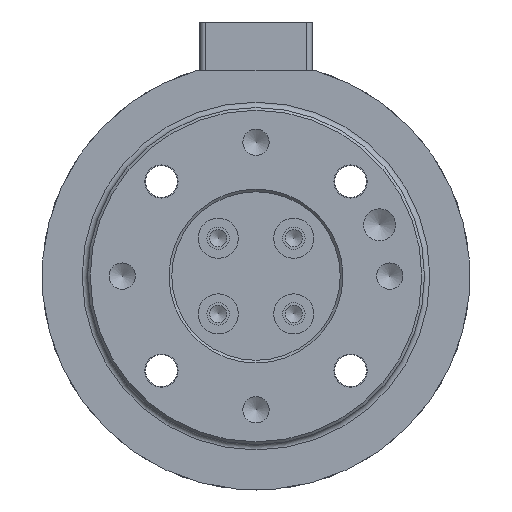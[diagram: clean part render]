
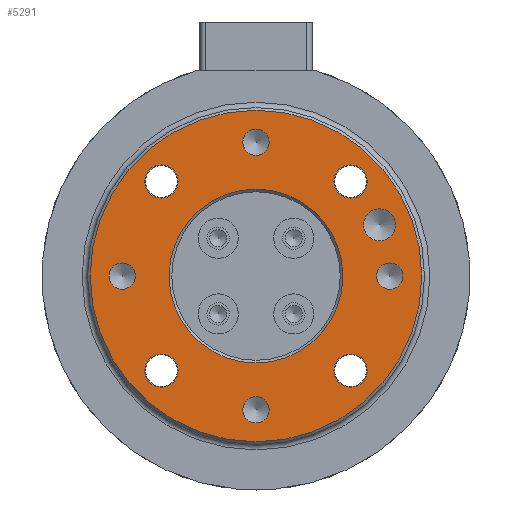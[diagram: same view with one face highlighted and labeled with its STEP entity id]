
A CAD part, front view. The second image highlights one B-rep face of the part: STEP entity #5291.
In plain terms, the highlighted planar face has unit normal (0, -1, 0) as drawn and (0, 1, 0) by its records, which use the part's own axes.
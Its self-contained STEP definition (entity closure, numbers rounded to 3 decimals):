
#154=FACE_BOUND('',#850,.T.);
#155=FACE_BOUND('',#851,.T.);
#156=FACE_BOUND('',#852,.T.);
#157=FACE_BOUND('',#853,.T.);
#158=FACE_BOUND('',#854,.T.);
#159=FACE_BOUND('',#855,.T.);
#160=FACE_BOUND('',#856,.T.);
#161=FACE_BOUND('',#857,.T.);
#162=FACE_BOUND('',#858,.T.);
#163=FACE_BOUND('',#859,.T.);
#312=PLANE('',#5900);
#539=FACE_OUTER_BOUND('',#849,.T.);
#849=EDGE_LOOP('',(#4403));
#850=EDGE_LOOP('',(#4404,#4405));
#851=EDGE_LOOP('',(#4406));
#852=EDGE_LOOP('',(#4407,#4408));
#853=EDGE_LOOP('',(#4409,#4410));
#854=EDGE_LOOP('',(#4411,#4412));
#855=EDGE_LOOP('',(#4413,#4414));
#856=EDGE_LOOP('',(#4415,#4416));
#857=EDGE_LOOP('',(#4417,#4418));
#858=EDGE_LOOP('',(#4419,#4420));
#859=EDGE_LOOP('',(#4421,#4422));
#1971=CIRCLE('',#5868,3.);
#1972=CIRCLE('',#5869,3.);
#1990=CIRCLE('',#5899,31.);
#1991=CIRCLE('',#5901,16.25);
#1992=CIRCLE('',#5902,3.1);
#1993=CIRCLE('',#5903,3.1);
#1994=CIRCLE('',#5904,3.1);
#1995=CIRCLE('',#5905,3.1);
#1996=CIRCLE('',#5906,3.1);
#1997=CIRCLE('',#5907,3.1);
#1998=CIRCLE('',#5908,3.1);
#1999=CIRCLE('',#5909,3.1);
#2000=CIRCLE('',#5910,2.459);
#2001=CIRCLE('',#5911,2.459);
#2002=CIRCLE('',#5912,2.459);
#2003=CIRCLE('',#5913,2.459);
#2004=CIRCLE('',#5914,2.459);
#2005=CIRCLE('',#5915,2.459);
#2006=CIRCLE('',#5916,2.459);
#2007=CIRCLE('',#5917,2.459);
#2453=VERTEX_POINT('',#8812);
#2454=VERTEX_POINT('',#8813);
#2470=VERTEX_POINT('',#8866);
#2471=VERTEX_POINT('',#8870);
#2472=VERTEX_POINT('',#8872);
#2473=VERTEX_POINT('',#8873);
#2474=VERTEX_POINT('',#8876);
#2475=VERTEX_POINT('',#8877);
#2476=VERTEX_POINT('',#8880);
#2477=VERTEX_POINT('',#8881);
#2478=VERTEX_POINT('',#8884);
#2479=VERTEX_POINT('',#8885);
#2480=VERTEX_POINT('',#8888);
#2481=VERTEX_POINT('',#8889);
#2482=VERTEX_POINT('',#8892);
#2483=VERTEX_POINT('',#8893);
#2484=VERTEX_POINT('',#8896);
#2485=VERTEX_POINT('',#8897);
#2486=VERTEX_POINT('',#8900);
#2487=VERTEX_POINT('',#8901);
#3132=EDGE_CURVE('',#2453,#2454,#1971,.T.);
#3133=EDGE_CURVE('',#2454,#2453,#1972,.T.);
#3158=EDGE_CURVE('',#2470,#2470,#1990,.T.);
#3159=EDGE_CURVE('',#2471,#2471,#1991,.T.);
#3160=EDGE_CURVE('',#2472,#2473,#1992,.T.);
#3161=EDGE_CURVE('',#2473,#2472,#1993,.T.);
#3162=EDGE_CURVE('',#2474,#2475,#1994,.T.);
#3163=EDGE_CURVE('',#2475,#2474,#1995,.T.);
#3164=EDGE_CURVE('',#2476,#2477,#1996,.T.);
#3165=EDGE_CURVE('',#2477,#2476,#1997,.T.);
#3166=EDGE_CURVE('',#2478,#2479,#1998,.T.);
#3167=EDGE_CURVE('',#2479,#2478,#1999,.T.);
#3168=EDGE_CURVE('',#2480,#2481,#2000,.T.);
#3169=EDGE_CURVE('',#2481,#2480,#2001,.T.);
#3170=EDGE_CURVE('',#2482,#2483,#2002,.T.);
#3171=EDGE_CURVE('',#2483,#2482,#2003,.T.);
#3172=EDGE_CURVE('',#2484,#2485,#2004,.T.);
#3173=EDGE_CURVE('',#2485,#2484,#2005,.T.);
#3174=EDGE_CURVE('',#2486,#2487,#2006,.T.);
#3175=EDGE_CURVE('',#2487,#2486,#2007,.T.);
#4403=ORIENTED_EDGE('',*,*,#3158,.F.);
#4404=ORIENTED_EDGE('',*,*,#3132,.T.);
#4405=ORIENTED_EDGE('',*,*,#3133,.T.);
#4406=ORIENTED_EDGE('',*,*,#3159,.F.);
#4407=ORIENTED_EDGE('',*,*,#3160,.T.);
#4408=ORIENTED_EDGE('',*,*,#3161,.T.);
#4409=ORIENTED_EDGE('',*,*,#3162,.T.);
#4410=ORIENTED_EDGE('',*,*,#3163,.T.);
#4411=ORIENTED_EDGE('',*,*,#3164,.T.);
#4412=ORIENTED_EDGE('',*,*,#3165,.T.);
#4413=ORIENTED_EDGE('',*,*,#3166,.T.);
#4414=ORIENTED_EDGE('',*,*,#3167,.T.);
#4415=ORIENTED_EDGE('',*,*,#3168,.T.);
#4416=ORIENTED_EDGE('',*,*,#3169,.T.);
#4417=ORIENTED_EDGE('',*,*,#3170,.T.);
#4418=ORIENTED_EDGE('',*,*,#3171,.T.);
#4419=ORIENTED_EDGE('',*,*,#3172,.T.);
#4420=ORIENTED_EDGE('',*,*,#3173,.T.);
#4421=ORIENTED_EDGE('',*,*,#3174,.T.);
#4422=ORIENTED_EDGE('',*,*,#3175,.T.);
#5291=ADVANCED_FACE('',(#539,#154,#155,#156,#157,#158,#159,#160,#161,#162,
#163),#312,.T.);
#5868=AXIS2_PLACEMENT_3D('',#8814,#7152,#7153);
#5869=AXIS2_PLACEMENT_3D('',#8815,#7154,#7155);
#5899=AXIS2_PLACEMENT_3D('',#8868,#7221,#7222);
#5900=AXIS2_PLACEMENT_3D('',#8869,#7223,#7224);
#5901=AXIS2_PLACEMENT_3D('',#8871,#7225,#7226);
#5902=AXIS2_PLACEMENT_3D('',#8874,#7227,#7228);
#5903=AXIS2_PLACEMENT_3D('',#8875,#7229,#7230);
#5904=AXIS2_PLACEMENT_3D('',#8878,#7231,#7232);
#5905=AXIS2_PLACEMENT_3D('',#8879,#7233,#7234);
#5906=AXIS2_PLACEMENT_3D('',#8882,#7235,#7236);
#5907=AXIS2_PLACEMENT_3D('',#8883,#7237,#7238);
#5908=AXIS2_PLACEMENT_3D('',#8886,#7239,#7240);
#5909=AXIS2_PLACEMENT_3D('',#8887,#7241,#7242);
#5910=AXIS2_PLACEMENT_3D('',#8890,#7243,#7244);
#5911=AXIS2_PLACEMENT_3D('',#8891,#7245,#7246);
#5912=AXIS2_PLACEMENT_3D('',#8894,#7247,#7248);
#5913=AXIS2_PLACEMENT_3D('',#8895,#7249,#7250);
#5914=AXIS2_PLACEMENT_3D('',#8898,#7251,#7252);
#5915=AXIS2_PLACEMENT_3D('',#8899,#7253,#7254);
#5916=AXIS2_PLACEMENT_3D('',#8902,#7255,#7256);
#5917=AXIS2_PLACEMENT_3D('',#8903,#7257,#7258);
#7152=DIRECTION('center_axis',(0.,-1.,0.));
#7153=DIRECTION('ref_axis',(1.,0.,0.));
#7154=DIRECTION('center_axis',(0.,-1.,0.));
#7155=DIRECTION('ref_axis',(1.,0.,0.));
#7221=DIRECTION('center_axis',(0.,-1.,0.));
#7222=DIRECTION('ref_axis',(-1.,0.,0.));
#7223=DIRECTION('center_axis',(0.,1.,0.));
#7224=DIRECTION('ref_axis',(0.,0.,1.));
#7225=DIRECTION('center_axis',(0.,1.,0.));
#7226=DIRECTION('ref_axis',(-1.,0.,0.));
#7227=DIRECTION('center_axis',(0.,-1.,0.));
#7228=DIRECTION('ref_axis',(0.,0.,1.));
#7229=DIRECTION('center_axis',(0.,-1.,0.));
#7230=DIRECTION('ref_axis',(0.,0.,1.));
#7231=DIRECTION('center_axis',(0.,-1.,0.));
#7232=DIRECTION('ref_axis',(-1.,0.,0.));
#7233=DIRECTION('center_axis',(0.,-1.,0.));
#7234=DIRECTION('ref_axis',(-1.,0.,0.));
#7235=DIRECTION('center_axis',(0.,-1.,0.));
#7236=DIRECTION('ref_axis',(0.,0.,-1.));
#7237=DIRECTION('center_axis',(0.,-1.,0.));
#7238=DIRECTION('ref_axis',(0.,0.,-1.));
#7239=DIRECTION('center_axis',(0.,-1.,0.));
#7240=DIRECTION('ref_axis',(1.,0.,0.));
#7241=DIRECTION('center_axis',(0.,-1.,0.));
#7242=DIRECTION('ref_axis',(1.,0.,0.));
#7243=DIRECTION('center_axis',(0.,-1.,0.));
#7244=DIRECTION('ref_axis',(0.,0.,1.));
#7245=DIRECTION('center_axis',(0.,-1.,0.));
#7246=DIRECTION('ref_axis',(0.,0.,1.));
#7247=DIRECTION('center_axis',(0.,-1.,0.));
#7248=DIRECTION('ref_axis',(-1.,0.,0.));
#7249=DIRECTION('center_axis',(0.,-1.,0.));
#7250=DIRECTION('ref_axis',(-1.,0.,0.));
#7251=DIRECTION('center_axis',(0.,-1.,0.));
#7252=DIRECTION('ref_axis',(0.,0.,-1.));
#7253=DIRECTION('center_axis',(0.,-1.,0.));
#7254=DIRECTION('ref_axis',(0.,0.,-1.));
#7255=DIRECTION('center_axis',(0.,-1.,0.));
#7256=DIRECTION('ref_axis',(1.,0.,0.));
#7257=DIRECTION('center_axis',(0.,-1.,0.));
#7258=DIRECTION('ref_axis',(1.,0.,0.));
#8812=CARTESIAN_POINT('',(-20.097,17.7,9.567));
#8813=CARTESIAN_POINT('',(-26.097,17.7,9.567));
#8814=CARTESIAN_POINT('Origin',(-23.097,17.7,9.567));
#8815=CARTESIAN_POINT('Origin',(-23.097,17.7,9.567));
#8866=CARTESIAN_POINT('',(31.,17.7,0.));
#8868=CARTESIAN_POINT('Origin',(0.,17.7,0.));
#8869=CARTESIAN_POINT('Origin',(31.5,17.7,0.));
#8870=CARTESIAN_POINT('',(16.25,17.7,0.));
#8871=CARTESIAN_POINT('Origin',(0.,17.7,0.));
#8872=CARTESIAN_POINT('',(-17.678,17.7,-14.578));
#8873=CARTESIAN_POINT('',(-17.678,17.7,-20.778));
#8874=CARTESIAN_POINT('Origin',(-17.678,17.7,-17.678));
#8875=CARTESIAN_POINT('Origin',(-17.678,17.7,-17.678));
#8876=CARTESIAN_POINT('',(14.578,17.7,-17.678));
#8877=CARTESIAN_POINT('',(20.778,17.7,-17.678));
#8878=CARTESIAN_POINT('Origin',(17.678,17.7,-17.678));
#8879=CARTESIAN_POINT('Origin',(17.678,17.7,-17.678));
#8880=CARTESIAN_POINT('',(17.678,17.7,14.578));
#8881=CARTESIAN_POINT('',(17.678,17.7,20.778));
#8882=CARTESIAN_POINT('Origin',(17.678,17.7,17.678));
#8883=CARTESIAN_POINT('Origin',(17.678,17.7,17.678));
#8884=CARTESIAN_POINT('',(-14.578,17.7,17.678));
#8885=CARTESIAN_POINT('',(-20.778,17.7,17.678));
#8886=CARTESIAN_POINT('Origin',(-17.678,17.7,17.678));
#8887=CARTESIAN_POINT('Origin',(-17.678,17.7,17.678));
#8888=CARTESIAN_POINT('',(0.,17.7,-22.542));
#8889=CARTESIAN_POINT('',(0.,17.7,-27.459));
#8890=CARTESIAN_POINT('Origin',(0.,17.7,-25.));
#8891=CARTESIAN_POINT('Origin',(0.,17.7,-25.));
#8892=CARTESIAN_POINT('',(22.542,17.7,0.));
#8893=CARTESIAN_POINT('',(27.459,17.7,0.));
#8894=CARTESIAN_POINT('Origin',(25.,17.7,0.));
#8895=CARTESIAN_POINT('Origin',(25.,17.7,0.));
#8896=CARTESIAN_POINT('',(0.,17.7,22.542));
#8897=CARTESIAN_POINT('',(0.,17.7,27.459));
#8898=CARTESIAN_POINT('Origin',(0.,17.7,25.));
#8899=CARTESIAN_POINT('Origin',(0.,17.7,25.));
#8900=CARTESIAN_POINT('',(-22.542,17.7,0.));
#8901=CARTESIAN_POINT('',(-27.459,17.7,0.));
#8902=CARTESIAN_POINT('Origin',(-25.,17.7,0.));
#8903=CARTESIAN_POINT('Origin',(-25.,17.7,0.));
